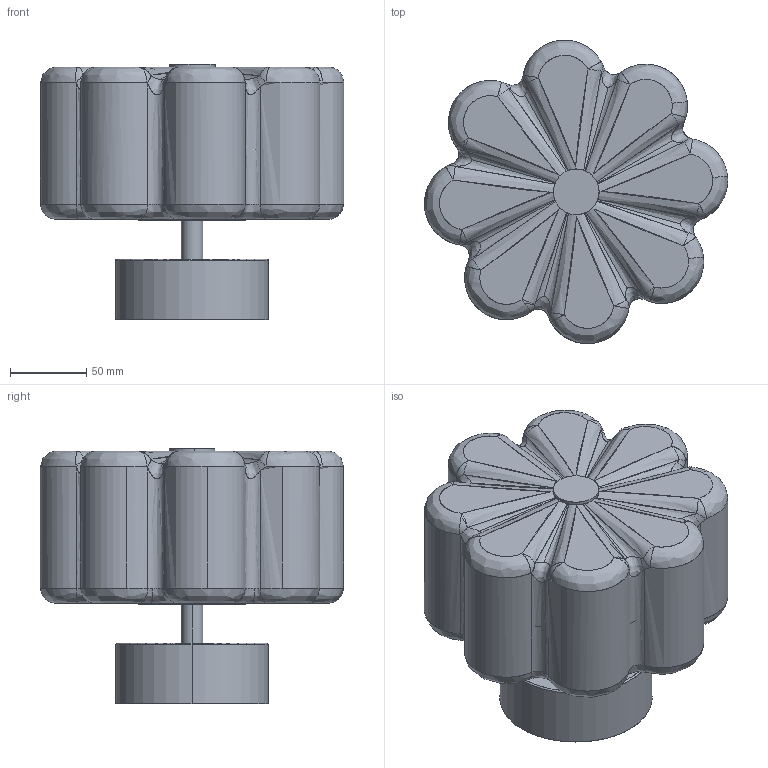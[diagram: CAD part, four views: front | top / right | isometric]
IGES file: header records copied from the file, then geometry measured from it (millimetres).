
Start section: SolidWorks IGES file using analytic representation for surfaces
Global section: file name: C:\Users\Agustin\Desktop\ENERO 2025\2D-3D\2D-3D FLOW_A1339\FLOW_A1339.IGS; native system: SolidWorks 2018; preprocessor: SolidWorks 2018; author: Agustin; date: 250117.133333; units: millimetre
Bounding box: 199.15 x 199.21 x 168 mm (x, y, z)
Surface area: 157315.6 mm2 (no closed solid volume)
Topology: 0 solids, 0 shells, 162 faces, 2056 edges, 2045 vertices
Faces by surface type: bspline 99, revolution 63
